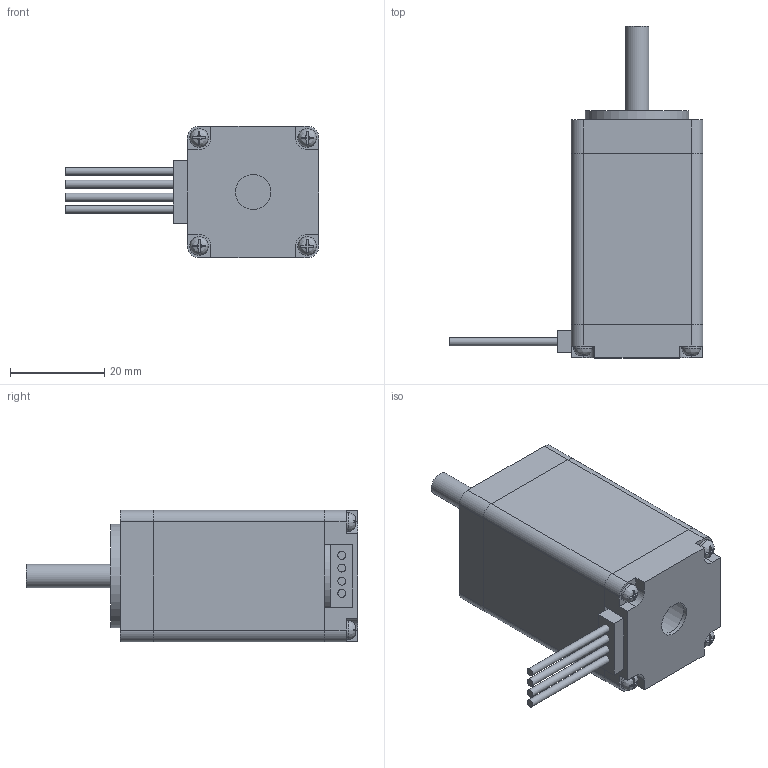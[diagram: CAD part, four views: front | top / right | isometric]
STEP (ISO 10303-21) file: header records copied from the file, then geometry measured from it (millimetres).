
FILE_DESCRIPTION(/* description */ (''),/* implementation_level */ '2;1');
FILE_NAME(/* name */ '28HS51-0674.stp',/* time_stamp */ '2020-10-08T09:35:06+08:00',/* author */ (''),/* organization */ (''),/* preprocessor_version */ 'ST-DEVELOPER v15',/* originating_system */ 'SIEMENS PLM Software NX 10.0',/* authorisation */ '');
FILE_SCHEMA (('AUTOMOTIVE_DESIGN { 1 0 10303 214 3 1 1 1 }'));
Length unit declared in the file: millimetre
Products named in the file (5): 20-5轴; 001B-01带护套线的; 001F; 36.4h 定子; 28HS51-0674
Assembly tree (4 placements, depth 2):
  28HS51-0674
    36.4h 定子
    001F
    001B-01带护套线的
    20-5轴
Bounding box: 54 x 70.6 x 28 mm (x, y, z)
Volume: 35209.2 mm3; surface area: 14067.6 mm2
Topology: 10 solids, 10 shells, 197 faces, 486 edges, 326 vertices
Faces by surface type: plane 149, cylinder 44, bspline 4
Full cylindrical faces by diameter (mm): 1.7 x4, 2.5 x4, 2.8 x4, 4 x4, 5 x1, 7.5 x3, 10 x2, 13 x2, 16.91 x2, 22 x1, 24 x1
Entity records: 6012 total; most frequent: CARTESIAN_POINT 1378, DIRECTION 892, ORIENTED_EDGE 880, EDGE_CURVE 440, VERTEX_POINT 312, AXIS2_PLACEMENT_3D 302, LINE 288, VECTOR 288
